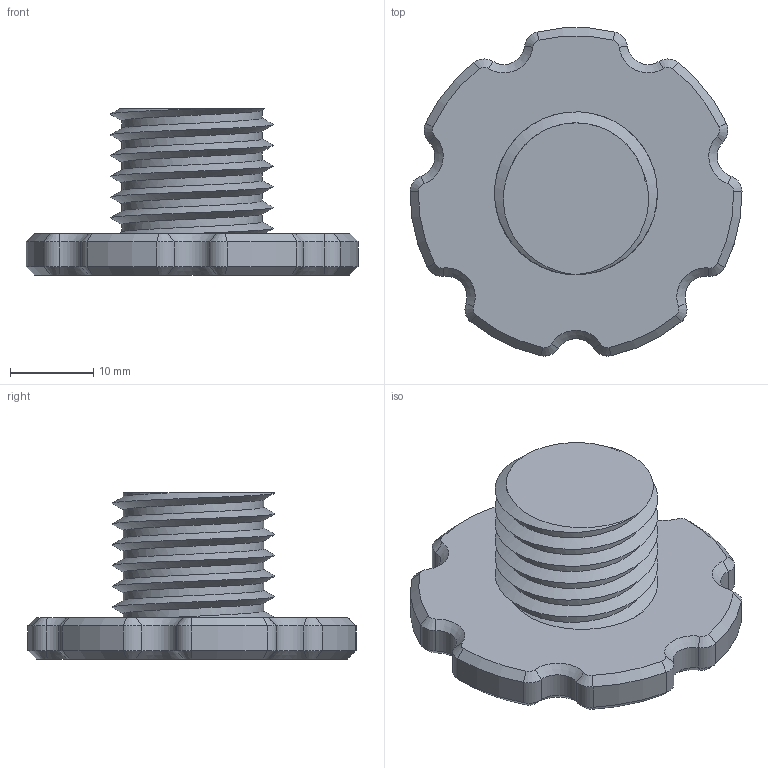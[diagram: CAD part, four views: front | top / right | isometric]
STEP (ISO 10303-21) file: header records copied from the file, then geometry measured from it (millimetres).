
FILE_DESCRIPTION(/* description */ (''),/* implementation_level */ '2;1');
FILE_NAME(/* name */ 'HeadphoneHanger_LockingScrew.step',/* time_stamp */ '2023-11-05T13:57:01-08:00',/* author */ (''),/* organization */ (''),/* preprocessor_version */ 'ST-DEVELOPER v20',/* originating_system */ 'Autodesk Translation Framework v12.14.0.127',/* authorisation */ '');
FILE_SCHEMA (('AUTOMOTIVE_DESIGN { 1 0 10303 214 3 1 1 }'));
Length unit declared in the file: millimetre
Products named in the file (1): HeadphoneHanger
Bounding box: 40 x 39.53 x 20 mm (x, y, z)
Volume: 9508.9 mm3; surface area: 4252.1 mm2
Topology: 1 solids, 1 shells, 96 faces, 223 edges, 130 vertices
Faces by surface type: cone 56, cylinder 35, plane 3, bspline 2
Full cylindrical faces by diameter (mm): 16.938 x5
Entity records: 4302 total; most frequent: CARTESIAN_POINT 2047, DIRECTION 508, ORIENTED_EDGE 446, EDGE_CURVE 223, AXIS2_PLACEMENT_3D 209, VERTEX_POINT 130, CIRCLE 114, EDGE_LOOP 97
